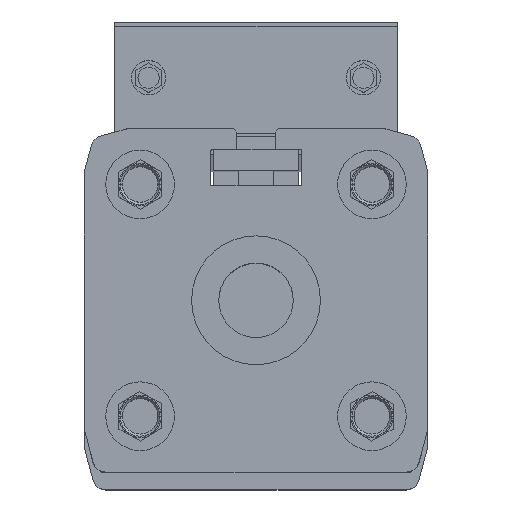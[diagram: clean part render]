
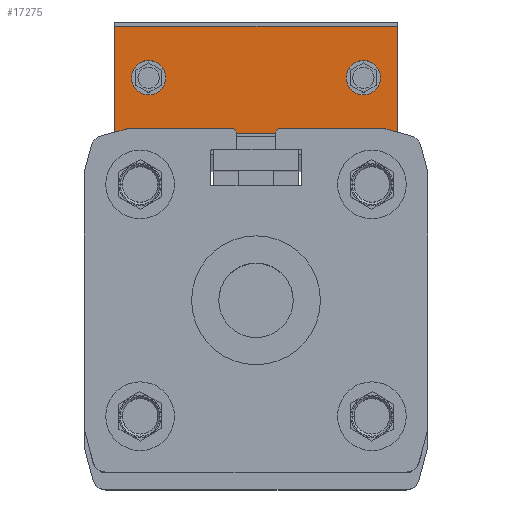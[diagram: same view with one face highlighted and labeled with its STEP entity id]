
A CAD part, top view. The second image highlights one B-rep face of the part: STEP entity #17275.
In plain terms, the highlighted planar face has unit normal (0, 0, 1) as drawn and (-1, 0, 0) by its records, which use the part's own axes.
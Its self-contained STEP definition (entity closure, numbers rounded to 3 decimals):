
#17112 = VERTEX_POINT ( 'NONE', #32161 ) ;
#17114 = EDGE_CURVE ( 'NONE', #17115, #17112, #32162, .T. ) ;
#17115 = VERTEX_POINT ( 'NONE', #32220 ) ;
#17144 = VERTEX_POINT ( 'NONE', #32287 ) ;
#17146 = VERTEX_POINT ( 'NONE', #32286 ) ;
#17199 = EDGE_CURVE ( 'NONE', #17146, #17144, #32377, .T. ) ;
#17256 = VERTEX_POINT ( 'NONE', #32466 ) ;
#17257 = ORIENTED_EDGE ( 'NONE', *, *, #17258, .F. ) ;
#17258 = EDGE_CURVE ( 'NONE', #17259, #17336, #32465, .T. ) ;
#17259 = VERTEX_POINT ( 'NONE', #32461 ) ;
#17260 = ORIENTED_EDGE ( 'NONE', *, *, #17261, .F. ) ;
#17261 = EDGE_CURVE ( 'NONE', #17262, #17259, #32460, .T. ) ;
#17262 = VERTEX_POINT ( 'NONE', #32456 ) ;
#17263 = ORIENTED_EDGE ( 'NONE', *, *, #17264, .F. ) ;
#17264 = EDGE_CURVE ( 'NONE', #17256, #17262, #32455, .T. ) ;
#17274 = EDGE_CURVE ( 'NONE', #17144, #17146, #32500, .T. ) ;
#17275 = ADVANCED_FACE ( 'NONE', ( #32495, #32494, #32493 ), #32492, .T. ) ;
#17276 = EDGE_LOOP ( 'NONE', ( #17330, #17331 ) ) ;
#17315 = EDGE_LOOP ( 'NONE', ( #17316, #17317 ) ) ;
#17316 = ORIENTED_EDGE ( 'NONE', *, *, #17199, .T. ) ;
#17317 = ORIENTED_EDGE ( 'NONE', *, *, #17274, .T. ) ;
#17330 = ORIENTED_EDGE ( 'NONE', *, *, #17114, .T. ) ;
#17331 = ORIENTED_EDGE ( 'NONE', *, *, #17332, .T. ) ;
#17332 = EDGE_CURVE ( 'NONE', #17112, #17115, #32589, .T. ) ;
#17333 = EDGE_LOOP ( 'NONE', ( #17334, #17257, #17260, #17263 ) ) ;
#17334 = ORIENTED_EDGE ( 'NONE', *, *, #17335, .F. ) ;
#17335 = EDGE_CURVE ( 'NONE', #17336, #17256, #32584, .T. ) ;
#17336 = VERTEX_POINT ( 'NONE', #32648 ) ;
#32161 = CARTESIAN_POINT ( 'NONE',  ( -55.5, 0., 27. ) ) ;
#32162 = CIRCLE ( 'NONE', #32224, 2. ) ;
#32220 = CARTESIAN_POINT ( 'NONE',  ( -55.5, 0., 31. ) ) ;
#32221 = DIRECTION ( 'NONE',  ( 0., 0., 1. ) ) ;
#32222 = DIRECTION ( 'NONE',  ( 1., 0., 0. ) ) ;
#32223 = CARTESIAN_POINT ( 'NONE',  ( -55.5, 0., 29. ) ) ;
#32224 = AXIS2_PLACEMENT_3D ( 'NONE', #32223, #32222, #32221 ) ;
#32286 = CARTESIAN_POINT ( 'NONE',  ( -55.5, 0., 6. ) ) ;
#32287 = CARTESIAN_POINT ( 'NONE',  ( -55.5, 0., 2. ) ) ;
#32373 = DIRECTION ( 'NONE',  ( 0., 0., 1. ) ) ;
#32374 = DIRECTION ( 'NONE',  ( 1., 0., 0. ) ) ;
#32375 = CARTESIAN_POINT ( 'NONE',  ( -55.5, 0., 4. ) ) ;
#32376 = AXIS2_PLACEMENT_3D ( 'NONE', #32375, #32374, #32373 ) ;
#32377 = CIRCLE ( 'NONE', #32376, 2. ) ;
#32452 = DIRECTION ( 'NONE',  ( 0., 1., 0. ) ) ;
#32453 = VECTOR ( 'NONE', #32452, 1000. ) ;
#32454 = CARTESIAN_POINT ( 'NONE',  ( -55.5, 6., 0.05 ) ) ;
#32455 = LINE ( 'NONE', #32454, #32453 ) ;
#32456 = CARTESIAN_POINT ( 'NONE',  ( -55.5, 6., 0.05 ) ) ;
#32457 = DIRECTION ( 'NONE',  ( 0., 0., 1. ) ) ;
#32458 = VECTOR ( 'NONE', #32457, 1000. ) ;
#32459 = CARTESIAN_POINT ( 'NONE',  ( -55.5, 6., 32.95 ) ) ;
#32460 = LINE ( 'NONE', #32459, #32458 ) ;
#32461 = CARTESIAN_POINT ( 'NONE',  ( -55.5, 6., 32.95 ) ) ;
#32462 = DIRECTION ( 'NONE',  ( 0., -1., 0. ) ) ;
#32463 = VECTOR ( 'NONE', #32462, 1000. ) ;
#32464 = CARTESIAN_POINT ( 'NONE',  ( -55.5, 6., 32.95 ) ) ;
#32465 = LINE ( 'NONE', #32464, #32463 ) ;
#32466 = CARTESIAN_POINT ( 'NONE',  ( -55.5, -6.5, 0.05 ) ) ;
#32488 = DIRECTION ( 'NONE',  ( 0., 0., -1. ) ) ;
#32489 = DIRECTION ( 'NONE',  ( -1., 0., 0. ) ) ;
#32490 = CARTESIAN_POINT ( 'NONE',  ( -55.5, 6., 32.95 ) ) ;
#32491 = AXIS2_PLACEMENT_3D ( 'NONE', #32490, #32489, #32488 ) ;
#32492 = PLANE ( 'NONE',  #32491 ) ;
#32493 = FACE_BOUND ( 'NONE', #17315, .T. ) ;
#32494 = FACE_OUTER_BOUND ( 'NONE', #17333, .T. ) ;
#32495 = FACE_BOUND ( 'NONE', #17276, .T. ) ;
#32496 = DIRECTION ( 'NONE',  ( 0., 0., 1. ) ) ;
#32497 = DIRECTION ( 'NONE',  ( 1., 0., 0. ) ) ;
#32498 = CARTESIAN_POINT ( 'NONE',  ( -55.5, 0., 4. ) ) ;
#32499 = AXIS2_PLACEMENT_3D ( 'NONE', #32498, #32497, #32496 ) ;
#32500 = CIRCLE ( 'NONE', #32499, 2. ) ;
#32581 = DIRECTION ( 'NONE',  ( 0., 0., -1. ) ) ;
#32582 = VECTOR ( 'NONE', #32581, 1000. ) ;
#32583 = CARTESIAN_POINT ( 'NONE',  ( -55.5, -6.5, -0.25 ) ) ;
#32584 = LINE ( 'NONE', #32583, #32582 ) ;
#32585 = DIRECTION ( 'NONE',  ( 0., 0., 1. ) ) ;
#32586 = DIRECTION ( 'NONE',  ( 1., 0., 0. ) ) ;
#32587 = CARTESIAN_POINT ( 'NONE',  ( -55.5, 0., 29. ) ) ;
#32588 = AXIS2_PLACEMENT_3D ( 'NONE', #32587, #32586, #32585 ) ;
#32589 = CIRCLE ( 'NONE', #32588, 2. ) ;
#32648 = CARTESIAN_POINT ( 'NONE',  ( -55.5, -6.5, 32.95 ) ) ;
